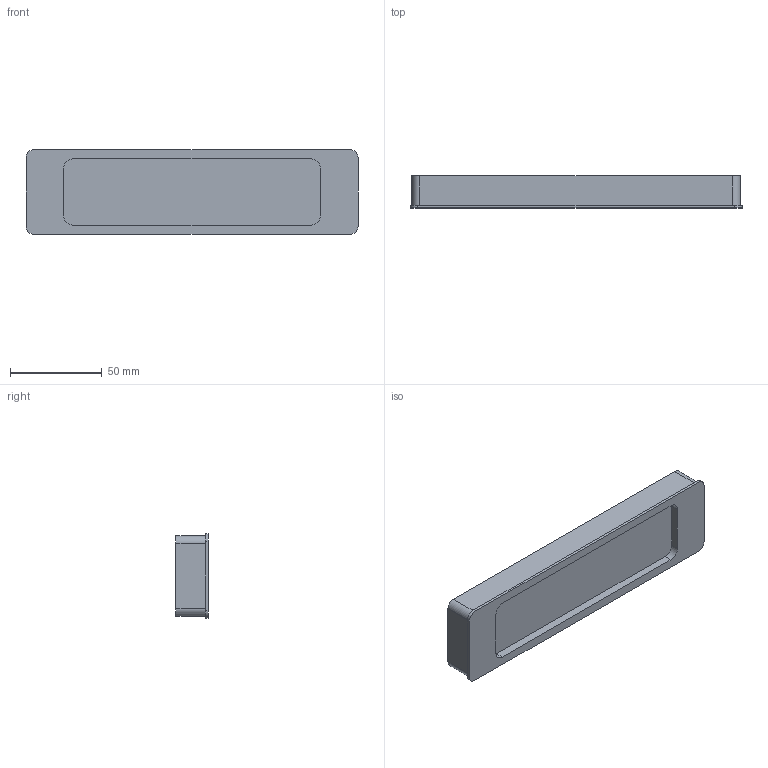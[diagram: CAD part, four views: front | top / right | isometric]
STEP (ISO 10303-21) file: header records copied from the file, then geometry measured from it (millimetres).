
FILE_DESCRIPTION( ( 'STEP AP214' ), ' ' );
FILE_NAME( 'D:/Yug/Projects/Working Projects/Correction/Touch in recessed handle/9086692.stp', '2019-02-18T08:00:07', ( '' ), ( '' ), ' ', 'PARTsolutions', ' ' );
FILE_SCHEMA( ( 'AUTOMOTIVE_DESIGN { 1 0 10303 214 1 1 1 1 }' ) );
Length unit declared in the file: millimetre
Products named in the file (2): 95 ; _
Assembly tree (1 placements, depth 2):
  95 
    _
Bounding box: 181 x 17.5 x 46 mm (x, y, z)
Volume: 115398.9 mm3; surface area: 26107 mm2
Topology: 1 solids, 1 shells, 32 faces, 78 edges, 52 vertices
Faces by surface type: plane 18, cylinder 14
Full cylindrical faces by diameter (mm): 4 x2
Entity records: 1234 total; most frequent: DIRECTION 172, CARTESIAN_POINT 162, ORIENTED_EDGE 152, EDGE_CURVE 76, AXIS2_PLACEMENT_3D 62, VERTEX_POINT 52, LINE 48, VECTOR 48
